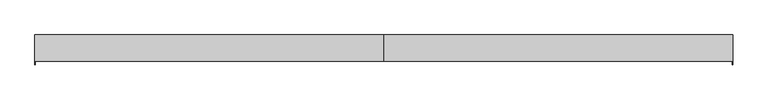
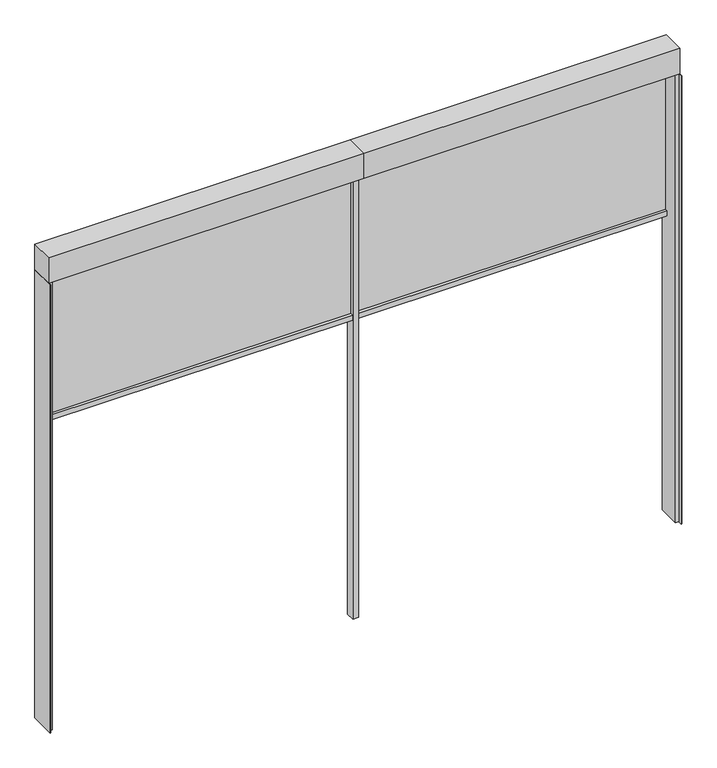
"""IFC4 building model written with IfcOpenShell, lengths in millimetres: proxy geometry, Renson_Fixscreen_Minimal_IM7B_With_CF : Recessed - Front of the window - Medium-CF - Access downwards - Fabric away from the window."""

from ifc_helpers import new_model, si_unit, frame, origin, place, context, project, spatial, polyline, outline, extrude, source, transform, mapped, element, save


def generic_models_a8878716(model_context):
    return source(origin(), model_context, "Body", "SweptSolid", [
        extrude(outline(polyline([(3176.0, 85.0), (3201.0, 85.0), (3201.0, -85.0), (3198.0, -85.0), (3198.0, -60.0), (3176.0, -60.0), (3176.0, 85.0)])), frame((0.0, 0.0, 800.0), z_axis=(0.0, 0.0, 1.0), x_axis=(1.0, 0.0, 0.0)), (0.0, 0.0, 1.0), 3000.0),
        extrude(outline(polyline([(-774.0, 85.0), (-774.0, -60.0), (-796.0, -60.0), (-796.0, -85.0), (-799.0, -85.0), (-799.0, 85.0), (-774.0, 85.0)])), frame((0.0, 0.0, 800.0), z_axis=(0.0, 0.0, 1.0), x_axis=(1.0, 0.0, 0.0)), (0.0, 0.0, 1.0), 3000.0),
        extrude(outline(polyline([(-780.65, 49.0), (-780.65, 52.0), (1182.75, 52.0), (1182.75, 49.0), (-780.65, 49.0)])), frame((0.0, 0.0, 2812.5006852), z_axis=(0.0, 0.0, 1.0), x_axis=(1.0, 0.0, 0.0)), (0.0, 0.0, 1.0), 987.4993148),
        extrude(outline(polyline([(70.95, 2800.0), (30.45, 2800.0), (30.45, 2834.1156799), (47.85, 2835.0275753), (47.85, 2812.5006852), (53.55, 2812.5006852), (53.55, 2835.0275753), (70.95, 2834.1156799), (70.95, 2800.0)])), frame((-780.65, 0.0, 0.0), z_axis=(1.0, 0.0, 0.0), x_axis=(0.0, 1.0, 0.0)), (0.0, 0.0, 1.0), 1963.4),
        extrude(outline(polyline([(70.9955279, 2800.0), (30.4955279, 2800.0), (30.4955279, 2834.1156799), (47.8955279, 2835.0275753), (47.8955279, 2812.5006852), (53.5955279, 2812.5006852), (53.5955279, 2835.0275753), (70.9955279, 2834.1156799), (70.9955279, 2800.0)])), frame((1219.3, 0.0, 0.0), z_axis=(1.0, 0.0, 0.0), x_axis=(0.0, 1.0, 0.0)), (0.0, 0.0, 1.0), 1957.7),
        extrude(outline(polyline([(1219.3, 49.0), (1219.3, 52.0), (3177.0, 52.0), (3177.0, 49.0), (1219.3, 49.0)])), frame((0.0, 0.0, 2812.5006852), z_axis=(0.0, 0.0, 1.0), x_axis=(1.0, 0.0, 0.0)), (0.0, 0.0, 1.0), 987.4993148),
        extrude(outline(polyline([(1201.0, -65.0), (1201.0, 85.0), (3201.0, 85.0), (3201.0, -65.0), (1201.0, -65.0)])), frame((0.0, 0.0, 3800.0), z_axis=(0.0, 0.0, 1.0), x_axis=(1.0, 0.0, 0.0)), (0.0, 0.0, 1.0), 170.0),
        extrude(outline(polyline([(-799.0, -65.0), (-799.0, 85.0), (1201.0, 85.0), (1201.0, -65.0), (-799.0, -65.0)])), frame((0.0, 0.0, 3800.0), z_axis=(0.0, 0.0, 1.0), x_axis=(1.0, 0.0, 0.0)), (0.0, 0.0, 1.0), 170.0),
        extrude(outline(polyline([(1219.25, 85.0), (1219.25, 28.75), (1182.75, 28.75), (1182.75, 85.0), (1219.25, 85.0)])), frame((0.0, 0.0, 800.0), z_axis=(0.0, 0.0, 1.0), x_axis=(1.0, 0.0, 0.0)), (0.0, 0.0, 1.0), 3000.0),
    ])


if __name__ == "__main__":
    model = new_model("IFC4")
    model_context = context("Model", 3, world=origin())
    ifc_project = project(units=[si_unit("LENGTHUNIT", "METRE", prefix="MILLI")], contexts=[model_context])
    site = spatial("IfcSite", under=ifc_project)
    building = spatial("IfcBuilding", under=site)
    placement = place(None, origin())
    generic_models_shape = generic_models_a8878716(model_context)
    element("IfcBuildingElementProxy", 1, Name="Renson_Fixscreen_Minimal_IM7B_With_CF : Recessed - Front of the window - Medium-CF - Access downwards - Fabric away from the window", ObjectType="Renson_Fixscreen_Minimal_IM7B_With_CF : Recessed - Front of the window - Medium-CF - Access downwards - Fabric away from the window", at=placement, inside=building, context=model_context, shape_type="MappedRepresentation", body=[
        mapped(generic_models_shape, transform((0.0, 0.0, 0.0), x_axis=(1.0, 0.0, 0.0), y_axis=(0.0, 1.0, 0.0), z_axis=(0.0, 0.0, 1.0))),
    ])
    save(model, "model.ifc")
